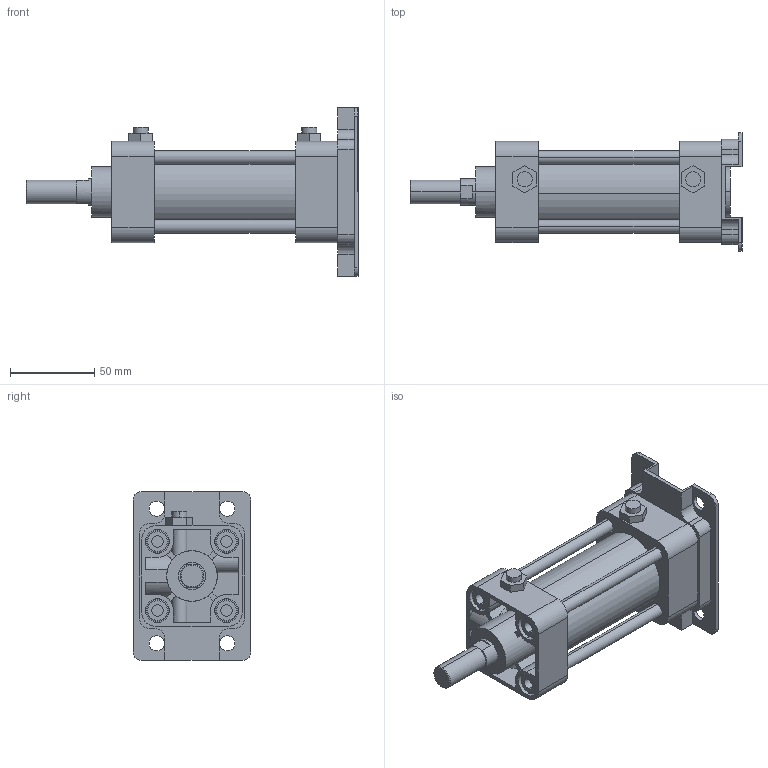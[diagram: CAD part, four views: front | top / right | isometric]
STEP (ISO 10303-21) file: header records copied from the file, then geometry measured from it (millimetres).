
FILE_DESCRIPTION (( 'STEP AP203' ), '1' );
FILE_NAME ('KG2-40-50-B.STEP', '2016-04-01T08:07:48', ( '' ), ( '' ), 'SwSTEP 2.0', 'SolidWorks 2014', '' );
FILE_SCHEMA (( 'CONFIG_CONTROL_DESIGN' ));
Length unit declared in the file: millimetre
Products named in the file (7): K-40-AB; KGLH2-40-50; KG2-40-50-B; KG2-40-After
Assembly tree (16 placements, depth 2):
  KG2-40-50-B
    KG2-40-After
    KGLH2-40-50
    (unnamed)
    (unnamed)  x4
    (unnamed)  x8
    K-40-AB
Bounding box: 197 x 70 x 100 mm (x, y, z)
Volume: 321251.4 mm3; surface area: 102014 mm2
Topology: 16 solids, 21 shells, 397 faces, 955 edges, 615 vertices
Faces by surface type: plane 171, cylinder 168, torus 32, cone 26
Entity records: 10584 total; most frequent: CARTESIAN_POINT 2011, DIRECTION 1647, ORIENTED_EDGE 1530, EDGE_CURVE 765, AXIS2_PLACEMENT_3D 606, VERTEX_POINT 505, VECTOR 435, LINE 435
